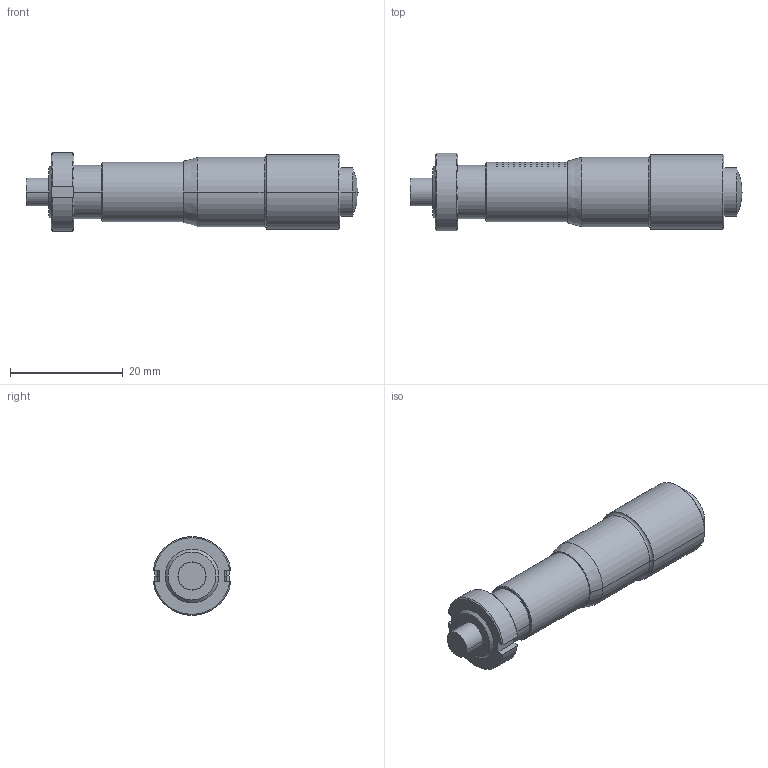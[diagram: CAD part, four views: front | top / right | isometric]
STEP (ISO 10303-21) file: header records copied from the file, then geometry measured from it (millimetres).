
FILE_DESCRIPTION((''),'2;1');
FILE_NAME('MICRO-HEAD-13-F-N-SJP','2021-07-12T17:42:48',('windows10'),(''),'CREO PARAMETRIC BY PTC INC, 2018260','CREO PARAMETRIC BY PTC INC, 2018260','');
FILE_SCHEMA(('CONFIG_CONTROL_DESIGN'));
Length unit declared in the file: millimetre
Products named in the file (1): MICRO-HEAD-13-F-N-SJP
Bounding box: 59 x 13.86 x 13.95 mm (x, y, z)
Volume: 4860.4 mm3; surface area: 4680.9 mm2
Topology: 1 solids, 2 shells, 341 faces, 875 edges, 579 vertices
Faces by surface type: plane 264, cylinder 57, cone 14, torus 4, sphere 2
Entity records: 10352 total; most frequent: CARTESIAN_POINT 2251, ORIENTED_EDGE 1742, DIRECTION 1543, EDGE_CURVE 873, VERTEX_POINT 579, AXIS2_PLACEMENT_3D 556, VECTOR 431, LINE 431
